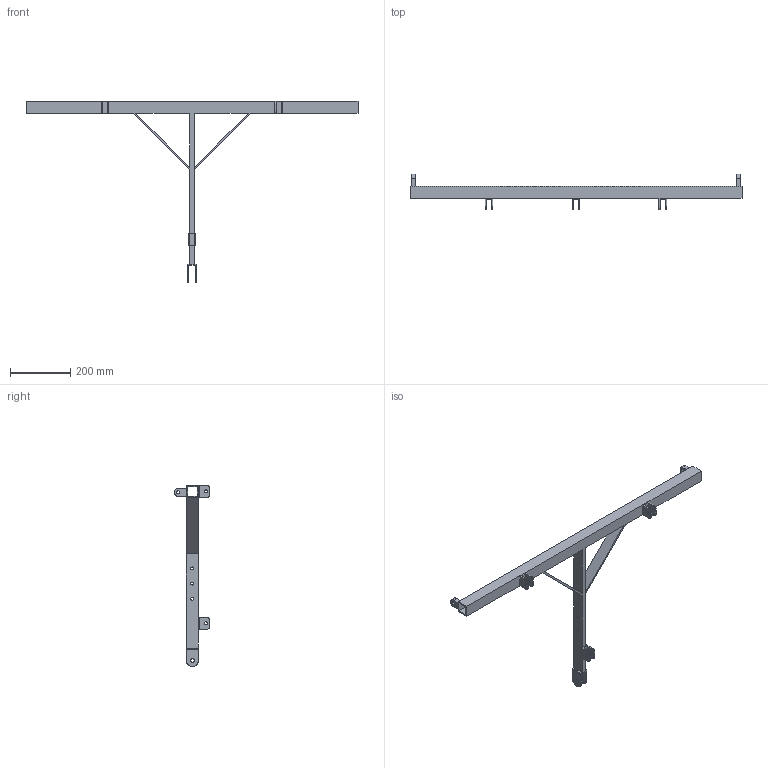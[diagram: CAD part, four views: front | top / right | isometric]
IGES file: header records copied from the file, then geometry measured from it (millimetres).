
Start section: SolidWorks IGES file using analytic representation for surfaces
Global section: file name: C:\Dokumente und Einstellungen\PC_Fabian\Desktop\Galeo_und_Co\Seeburg_GaleoXT-Transitioncradle.IGS; native system: SolidWorks 2009; preprocessor: SolidWorks 2009; author: PC_Fabian; date: 121017.122449; units: millimetre
Bounding box: 1100 x 118.2 x 600.19 mm (x, y, z)
Surface area: 458153.1 mm2 (no closed solid volume)
Topology: 0 solids, 0 shells, 111 faces, 1638 edges, 1638 vertices
Faces by surface type: bspline 67, revolution 44
